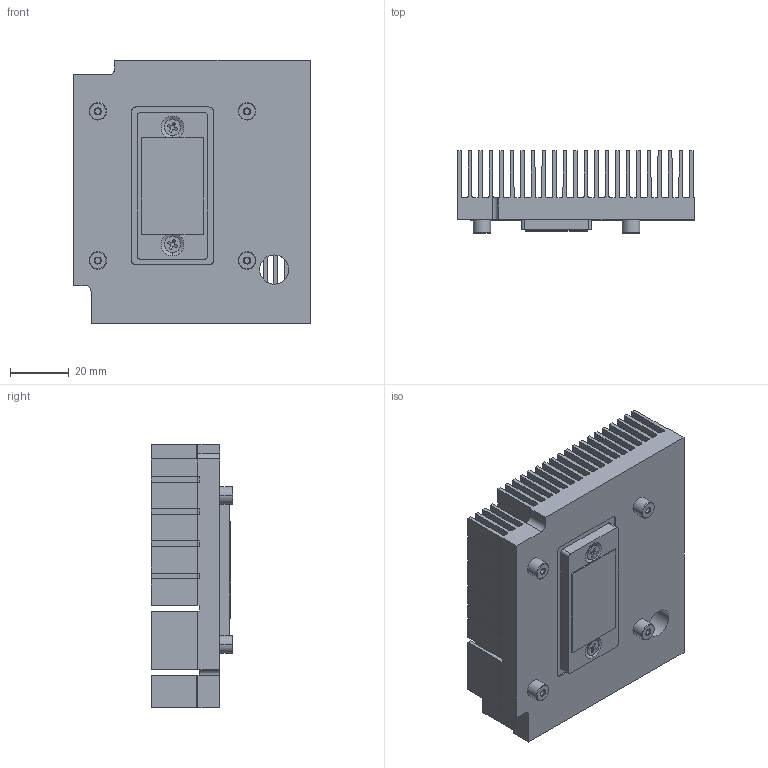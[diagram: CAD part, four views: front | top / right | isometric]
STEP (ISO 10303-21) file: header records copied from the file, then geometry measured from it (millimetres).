
FILE_DESCRIPTION((''),'2;1');
FILE_NAME('E1961211150032R_ASM','2024-01-30T13:27:06',('isaac_lin'),(''),'CREO PARAMETRIC BY PTC INC, 2023294','CREO PARAMETRIC BY PTC INC, 2023294','');
FILE_SCHEMA(('CONFIG_CONTROL_DESIGN'));
Length unit declared in the file: millimetre
Products named in the file (5): 95X36X90_; CU-50X24X3-9T; M7_GREASE_0-4T; M3X8L; E1961211150032R_ASM
Assembly tree (5 placements, depth 2):
  E1961211150032R_ASM
    95X36X90_
    CU-50X24X3-9T
    M7_GREASE_0-4T
    M3X8L  x2
Bounding box: 81 x 28 x 90 mm (x, y, z)
Volume: 91733.7 mm3; surface area: 84496.2 mm2
Topology: 5 solids, 5 shells, 1132 faces, 3636 edges, 2525 vertices
Faces by surface type: plane 724, cylinder 368, cone 24, bspline 16
Entity records: 40662 total; most frequent: CARTESIAN_POINT 9070, ORIENTED_EDGE 6520, DIRECTION 6448, EDGE_CURVE 3260, VECTOR 2688, LINE 2688, VERTEX_POINT 2177, AXIS2_PLACEMENT_3D 1880
